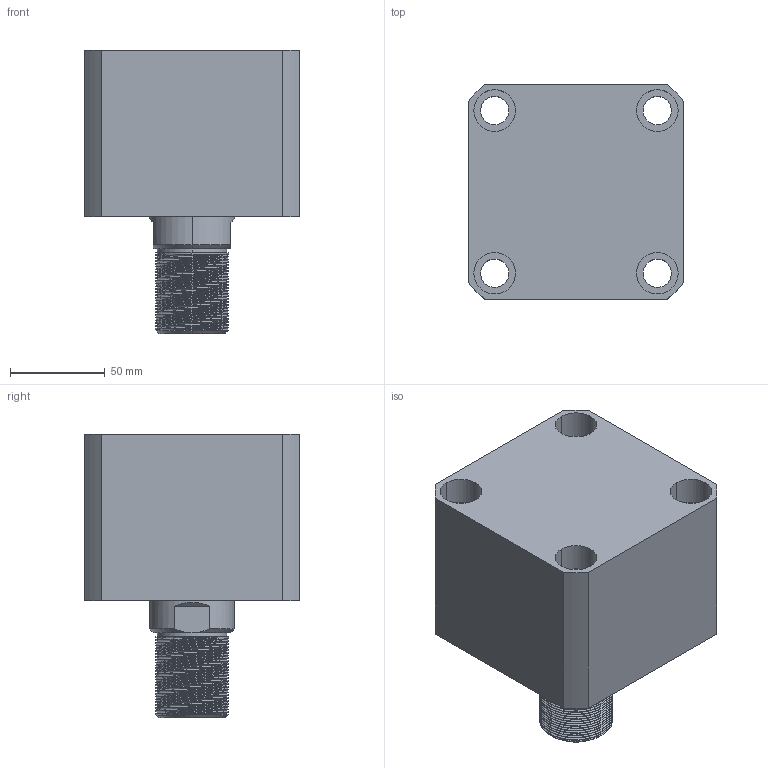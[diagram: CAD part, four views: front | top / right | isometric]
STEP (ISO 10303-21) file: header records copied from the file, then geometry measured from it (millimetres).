
FILE_DESCRIPTION (( 'STEP AP214' ), '1' );
FILE_NAME ('chtb-sdma80x10wasm.STEP', '2018-05-29T03:33:11', ( 'Windows' ), ( 'Microsoft' ), 'SwSTEP 2.0', 'SolidWorks 2015', '' );
FILE_SCHEMA (( 'AUTOMOTIVE_DESIGN' ));
Length unit declared in the file: millimetre
Products named in the file (4): CHTB-SD80X10WHSG; CHTB-SD80QG; chtb-sdma80x10wasm; CHTB-SDMA80X10NBT
Assembly tree (3 placements, depth 2):
  chtb-sdma80x10wasm
    CHTB-SD80QG
    CHTB-SD80X10WHSG
    CHTB-SDMA80X10NBT
Bounding box: 114 x 114 x 150 mm (x, y, z)
Volume: 1067461.6 mm3; surface area: 167036.9 mm2
Topology: 3 solids, 3 shells, 251 faces, 695 edges, 466 vertices
Faces by surface type: cylinder 163, plane 38, torus 18, bspline 16, cone 16
Entity records: 20277 total; most frequent: CARTESIAN_POINT 14301, ORIENTED_EDGE 1382, DIRECTION 1068, EDGE_CURVE 691, VERTEX_POINT 466, AXIS2_PLACEMENT_3D 433, EDGE_LOOP 289, FACE_OUTER_BOUND 251
